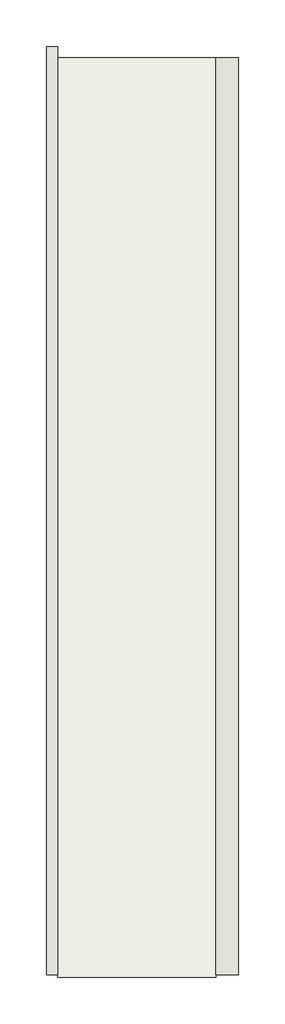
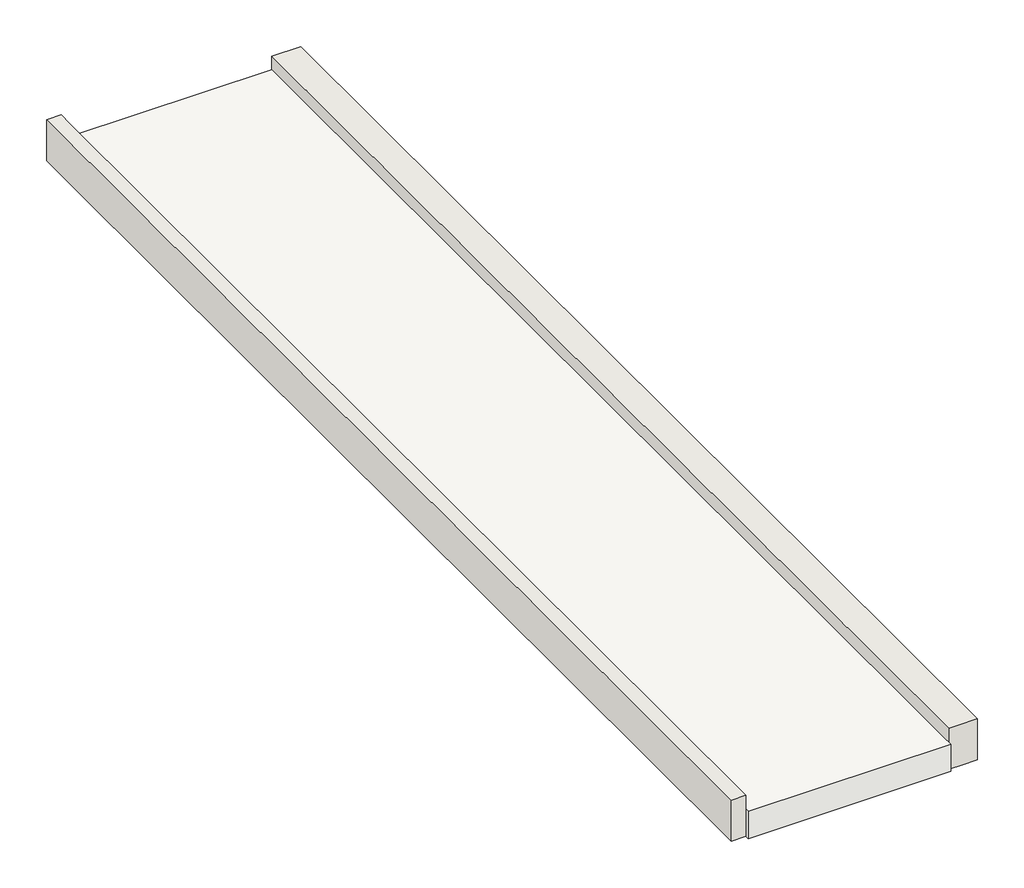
# One storey: 2 walls, 1 slab.
"""IFC4 building model written with IfcOpenShell, lengths in millimetres."""

from ifc_helpers import new_model, si_unit, origin, place, context, project, spatial, faceted_brep, element, save

model = new_model("IFC4")

# Units and contexts
model_context = context("Model", 3, world=origin())
ifc_project = project(units=[si_unit("LENGTHUNIT", "METRE", prefix="MILLI")], contexts=[model_context])

# Site, building, storey
site = spatial("IfcSite", under=ifc_project)
building = spatial("IfcBuilding", under=site)
storey = spatial("IfcBuildingStorey", under=building, Name="옥탑층", Elevation=21900.0)

# Slab
placement = place(None, origin())
element("IfcSlab", 1, ObjectType="SL100-구조 바닥 400", at=placement, inside=storey, context=model_context, shape_type="Brep", body=[
    faceted_brep([(-50.0, -150.0, 21900.0), (-50.0, 16100.0, 21900.0), (250.0, 16100.0, 21900.0), (2750.0, 16100.0, 21900.0), (2750.0, -150.0, 21900.0), (-50.0, -150.0, 22300.0), (2750.0, -150.0, 22300.0), (2750.0, 16100.0, 22300.0), (-50.0, 16100.0, 22300.0)], [[[0, 1, 2, 3, 4]], [[5, 6, 7, 8]], [[1, 0, 5, 8]], [[3, 2, 1, 8, 7]], [[0, 4, 6, 5]], [[4, 3, 7, 6]]]),
])

# Walls
element("IfcWall", 2, ObjectType="WA100-구조 벽 200", at=placement, inside=storey, context=model_context, shape_type="Brep", body=[
    faceted_brep([(-50.0, -100.0, 21900.0), (-50.0, 9600.0, 21900.0), (-50.0, 15700.0, 21900.0), (-50.0, 16100.0, 21900.0), (-50.0, 16300.0, 21900.0), (-50.0, 16300.0, 22500.0), (-50.0, 16100.0, 22500.0), (-50.0, -100.0, 22500.0), (-250.0, -100.0, 21900.0), (-250.0, -100.0, 22500.0), (-250.0, 16300.0, 22500.0), (-250.0, 16300.0, 21900.0), (-250.0, 15700.0, 21900.0), (-250.0, 9600.0, 21900.0)], [[[0, 1, 2, 3, 4, 5, 6, 7]], [[8, 9, 10, 11, 12, 13]], [[4, 3, 2, 1, 0, 8, 13, 12, 11]], [[7, 6, 5, 10, 9]], [[5, 4, 11, 10]], [[0, 7, 9, 8]]]),
])
element("IfcWall", 3, ObjectType="WA100-구조 벽 400", at=placement, inside=storey, context=model_context, shape_type="Brep", body=[
    faceted_brep([(2750.0, 16100.0, 21900.0), (2750.0, -100.0, 21900.0), (2750.0, -100.0, 22500.0), (2750.0, 16100.0, 22500.0), (3150.0, 16100.0, 21900.0), (3150.0, 16100.0, 22500.0), (3150.0, -100.0, 22500.0), (3150.0, -100.0, 21900.0), (3150.0, 5900.0, 21900.0), (3150.0, 10100.0, 21900.0), (2950.0, 16100.0, 21900.0), (2950.0, -100.0, 21900.0)], [[[0, 1, 2, 3]], [[4, 5, 6, 7, 8, 9]], [[1, 0, 10, 4, 9, 8, 7, 11]], [[3, 2, 6, 5]], [[2, 1, 11, 7, 6]], [[0, 3, 5, 4, 10]]]),
])

save(model, "model.ifc")
